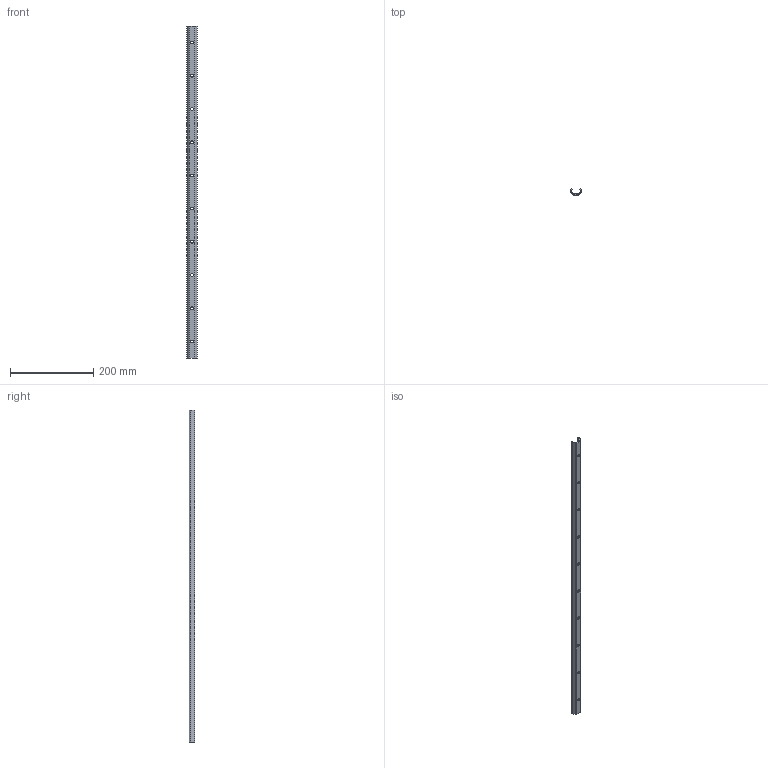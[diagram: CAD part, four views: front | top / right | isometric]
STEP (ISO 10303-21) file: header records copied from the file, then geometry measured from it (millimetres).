
FILE_DESCRIPTION(('STEP AP214'),'1');
FILE_NAME('rail_tex26-800.stp','2019-03-08T08:28:49',('TraceParts'),('TraceParts S.A.'),'Spatial InterOp 3D',' ',' ');
FILE_SCHEMA(('automotive_design'));
Length unit declared in the file: millimetre
Products named in the file (1): rail_tex26-800
Bounding box: 26.06 x 14 x 800 mm (x, y, z)
Volume: 82808.7 mm3; surface area: 70685.3 mm2
Topology: 1 solids, 1 shells, 217 faces, 564 edges, 376 vertices
Faces by surface type: plane 152, bspline 33, cylinder 32
Entity records: 13433 total; most frequent: CARTESIAN_POINT 6459, ORIENTED_EDGE 1128, DIRECTION 932, EDGE_CURVE 564, LINE 434, VECTOR 434, VERTEX_POINT 376, EDGE_LOOP 264
